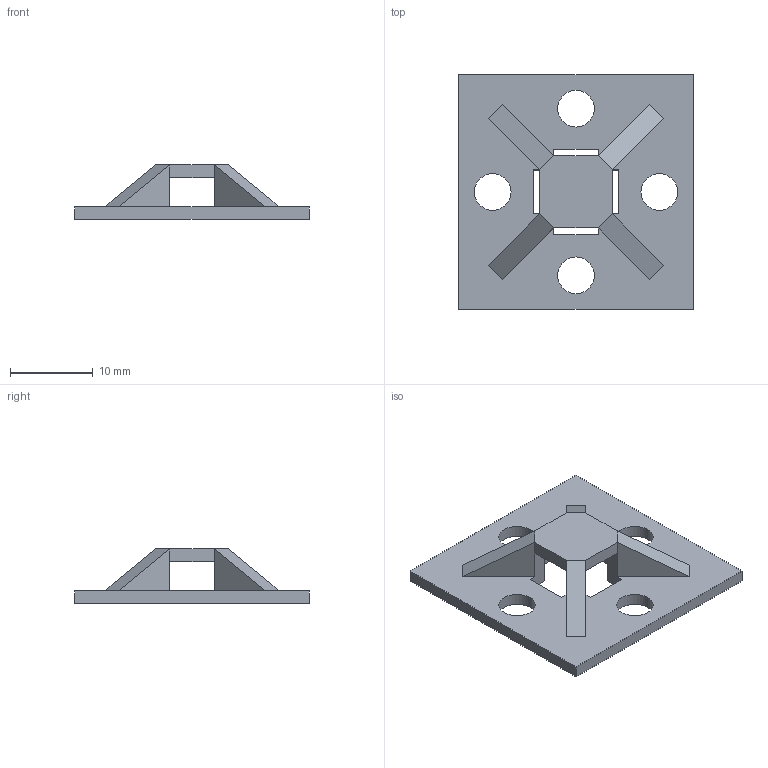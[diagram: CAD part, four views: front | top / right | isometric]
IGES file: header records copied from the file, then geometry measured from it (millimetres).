
Global section: file name: C:\Documents and Settings\Administrator\Desktop\Transfer Temp\cabletiemount.igs; native system: AutoDesk Inventor R2.0 ; preprocessor: AutoDesk Inventor Iges Exporter R2.0; author: No Author specified; organization: No Organization specified; date: 20020121.151028; units: inch
Bounding box: 28.45 x 28.45 x 6.58 mm (x, y, z)
Surface area: 2044.4 mm2 (no closed solid volume)
Topology: 0 solids, 0 shells, 52 faces, 296 edges, 296 vertices
Faces by surface type: bspline 44, revolution 8
